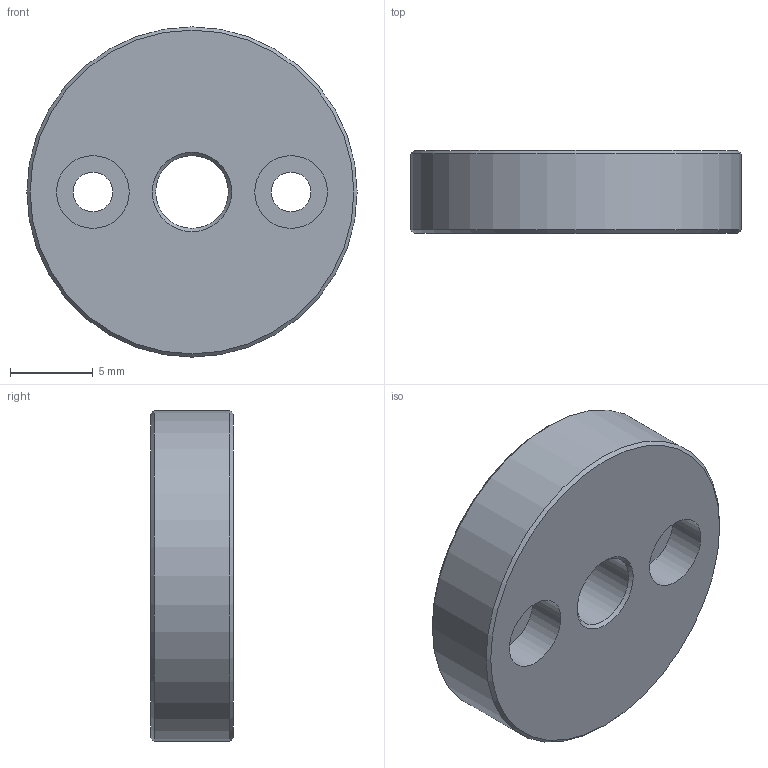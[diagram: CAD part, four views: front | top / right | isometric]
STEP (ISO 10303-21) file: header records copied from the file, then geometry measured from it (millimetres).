
FILE_DESCRIPTION (( 'STEP AP214' ), '1' );
FILE_NAME ('0.5mmµæ¿é.STEP', '2026-10-31T08:35:45', ( '' ), ( '' ), 'SwSTEP 2.0', 'SolidWorks 2022', '' );
FILE_SCHEMA (( 'AUTOMOTIVE_DESIGN' ));
Length unit declared in the file: millimetre
Products named in the file (1): 0.5mm菜輸
Bounding box: 20 x 5 x 20 mm (x, y, z)
Volume: 1395.2 mm3; surface area: 1050.7 mm2
Topology: 1 solids, 1 shells, 14 faces, 26 edges, 16 vertices
Faces by surface type: cylinder 6, plane 4, cone 4
Full cylindrical faces by diameter (mm): 2.4 x2, 4.4 x3, 20 x1
Entity records: 350 total; most frequent: DIRECTION 62, CARTESIAN_POINT 47, EDGE_LOOP 32, ORIENTED_EDGE 32, AXIS2_PLACEMENT_3D 31, FACE_OUTER_BOUND 20, VERTEX_POINT 16, CIRCLE 16
